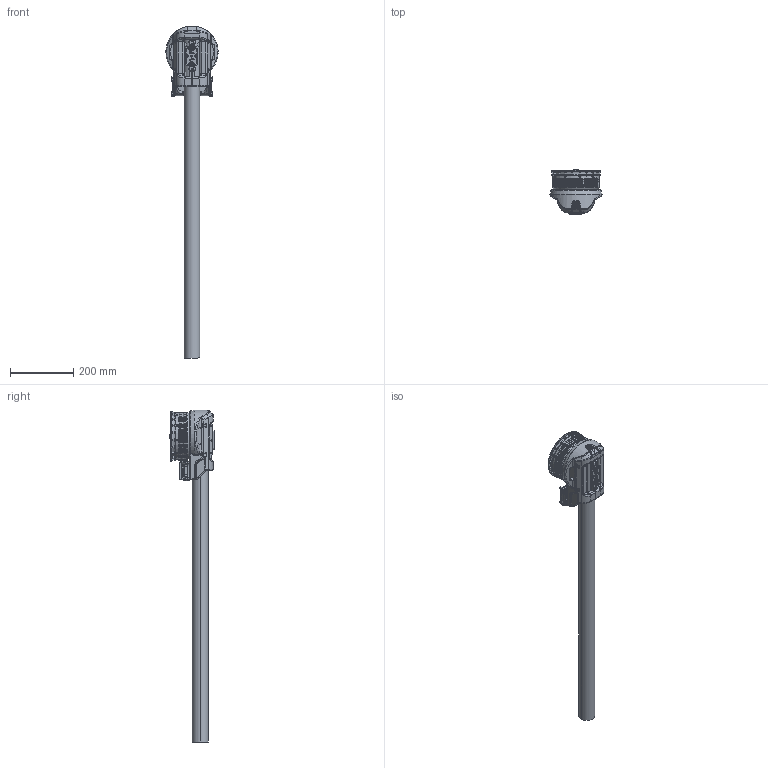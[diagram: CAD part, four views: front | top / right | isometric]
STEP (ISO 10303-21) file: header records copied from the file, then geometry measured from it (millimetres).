
FILE_DESCRIPTION (( 'STEP AP203' ), '1' );
FILE_NAME ('A14珨极趙萇儂-A.STEP', '2024-05-31T02:33:54', ( '' ), ( '' ), 'SwSTEP 2.0', 'SolidWorks 2022', '' );
FILE_SCHEMA (( 'CONFIG_CONTROL_DESIGN' ));
Length unit declared in the file: millimetre
Products named in the file (1): A14一体化电机-A
Bounding box: 164.87 x 141.4 x 1051 mm (x, y, z)
Volume: 3929895.2 mm3; surface area: 894904.8 mm2
Topology: 95 solids, 104 shells, 5507 faces, 14082 edges, 8773 vertices
Faces by surface type: plane 2293, cylinder 2139, bspline 565, cone 280, torus 198, sphere 32
Entity records: 183231 total; most frequent: CARTESIAN_POINT 53616, ORIENTED_EDGE 28056, DIRECTION 26484, EDGE_CURVE 14028, AXIS2_PLACEMENT_3D 9427, VERTEX_POINT 8773, VECTOR 7630, LINE 7630
